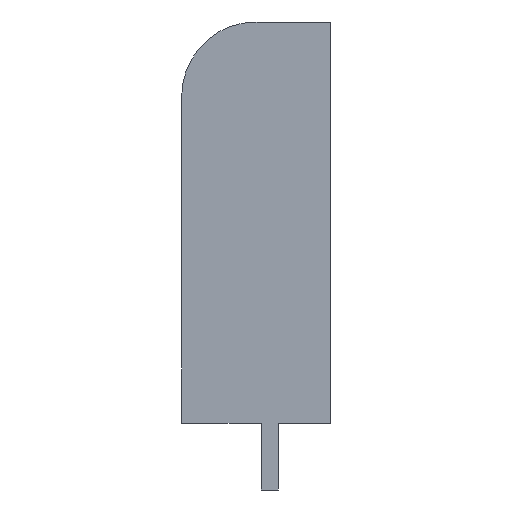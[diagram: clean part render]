
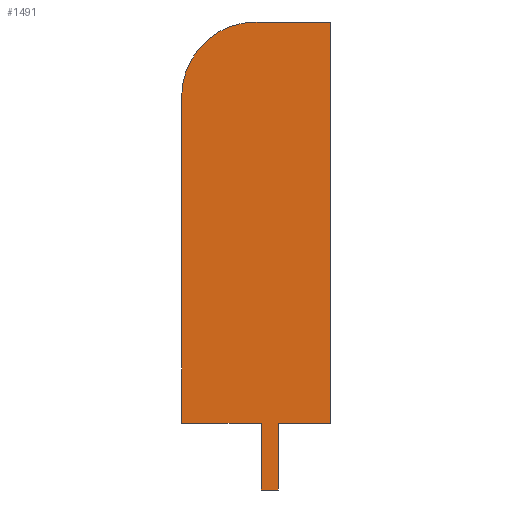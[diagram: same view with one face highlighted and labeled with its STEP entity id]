
A CAD part, left-side view. The second image highlights one B-rep face of the part: STEP entity #1491.
In plain terms, the highlighted planar face has unit normal (-1, 0, 0).
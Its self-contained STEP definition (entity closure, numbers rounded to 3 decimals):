
#44=PLANE('',#1595);
#136=FACE_OUTER_BOUND('',#225,.T.);
#225=EDGE_LOOP('',(#1356,#1357,#1358,#1359,#1360,#1361,#1362,#1363,#1364));
#245=CIRCLE('',#1576,5.);
#404=LINE('',#5238,#493);
#415=LINE('',#6029,#504);
#417=LINE('',#6033,#506);
#419=LINE('',#6037,#508);
#421=LINE('',#6041,#510);
#423=LINE('',#6045,#512);
#429=LINE('',#6055,#518);
#450=LINE('',#6101,#539);
#493=VECTOR('',#1764,10.);
#504=VECTOR('',#1795,10.);
#506=VECTOR('',#1799,10.);
#508=VECTOR('',#1803,10.);
#510=VECTOR('',#1807,10.);
#512=VECTOR('',#1811,10.);
#518=VECTOR('',#1819,10.);
#539=VECTOR('',#1864,10.);
#655=VERTEX_POINT('',#5232);
#657=VERTEX_POINT('',#5236);
#667=VERTEX_POINT('',#6022);
#668=VERTEX_POINT('',#6023);
#669=VERTEX_POINT('',#6028);
#670=VERTEX_POINT('',#6032);
#671=VERTEX_POINT('',#6036);
#672=VERTEX_POINT('',#6040);
#673=VERTEX_POINT('',#6044);
#852=EDGE_CURVE('',#655,#657,#404,.T.);
#874=EDGE_CURVE('',#667,#668,#245,.T.);
#877=EDGE_CURVE('',#669,#667,#415,.T.);
#879=EDGE_CURVE('',#670,#669,#417,.T.);
#881=EDGE_CURVE('',#671,#670,#419,.T.);
#883=EDGE_CURVE('',#672,#671,#421,.T.);
#885=EDGE_CURVE('',#673,#672,#423,.T.);
#891=EDGE_CURVE('',#655,#673,#429,.T.);
#914=EDGE_CURVE('',#657,#668,#450,.T.);
#1356=ORIENTED_EDGE('',*,*,#852,.T.);
#1357=ORIENTED_EDGE('',*,*,#914,.T.);
#1358=ORIENTED_EDGE('',*,*,#874,.F.);
#1359=ORIENTED_EDGE('',*,*,#877,.F.);
#1360=ORIENTED_EDGE('',*,*,#879,.F.);
#1361=ORIENTED_EDGE('',*,*,#881,.F.);
#1362=ORIENTED_EDGE('',*,*,#883,.F.);
#1363=ORIENTED_EDGE('',*,*,#885,.F.);
#1364=ORIENTED_EDGE('',*,*,#891,.F.);
#1491=ADVANCED_FACE('',(#136),#44,.T.);
#1576=AXIS2_PLACEMENT_3D('',#6024,#1789,#1790);
#1595=AXIS2_PLACEMENT_3D('',#6102,#1865,#1866);
#1764=DIRECTION('',(0.,0.,1.));
#1789=DIRECTION('center_axis',(1.,0.,0.));
#1790=DIRECTION('ref_axis',(0.,1.,0.));
#1795=DIRECTION('',(0.,0.,1.));
#1799=DIRECTION('',(0.,1.,0.));
#1803=DIRECTION('',(0.,0.,1.));
#1807=DIRECTION('',(0.,1.,0.));
#1811=DIRECTION('',(0.,0.,-1.));
#1819=DIRECTION('',(0.,1.,0.));
#1864=DIRECTION('',(0.,1.,0.));
#1865=DIRECTION('center_axis',(-1.,0.,0.));
#1866=DIRECTION('ref_axis',(0.,0.,1.));
#5232=CARTESIAN_POINT('',(-20.8,0.,0.));
#5236=CARTESIAN_POINT('',(-20.8,0.,27.));
#5238=CARTESIAN_POINT('',(-20.8,0.,0.));
#6022=CARTESIAN_POINT('',(-20.8,10.,22.));
#6023=CARTESIAN_POINT('',(-20.8,5.,27.));
#6024=CARTESIAN_POINT('Origin',(-20.8,5.,22.));
#6028=CARTESIAN_POINT('',(-20.8,10.,0.));
#6029=CARTESIAN_POINT('',(-20.8,10.,0.));
#6032=CARTESIAN_POINT('',(-20.8,4.65,0.));
#6033=CARTESIAN_POINT('',(-20.8,0.,0.));
#6036=CARTESIAN_POINT('',(-20.8,4.65,-4.5));
#6037=CARTESIAN_POINT('',(-20.8,4.65,-4.5));
#6040=CARTESIAN_POINT('',(-20.8,3.5,-4.5));
#6041=CARTESIAN_POINT('',(-20.8,3.5,-4.5));
#6044=CARTESIAN_POINT('',(-20.8,3.5,0.));
#6045=CARTESIAN_POINT('',(-20.8,3.5,0.));
#6055=CARTESIAN_POINT('',(-20.8,0.,0.));
#6101=CARTESIAN_POINT('',(-20.8,0.,27.));
#6102=CARTESIAN_POINT('Origin',(-20.8,0.,0.));
